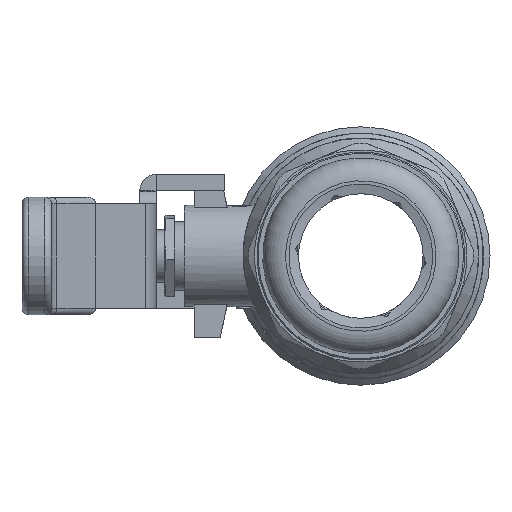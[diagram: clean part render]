
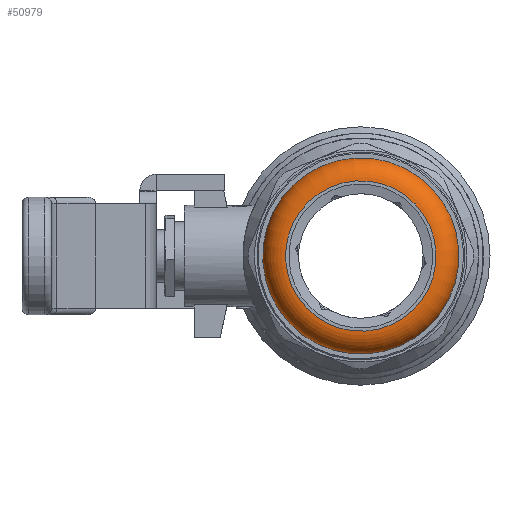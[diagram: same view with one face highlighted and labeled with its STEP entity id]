
A CAD part, left-side view. The second image highlights one B-rep face of the part: STEP entity #50979.
In plain terms, the highlighted toroidal (fillet/blend) face has major radius 11.5 mm and minor radius 3.5 mm.
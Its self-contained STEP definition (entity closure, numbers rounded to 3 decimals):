
#50689=CARTESIAN_POINT('',(-58.8,6.802,-9.273));
#50690=VERTEX_POINT('',#50689);
#50691=CARTESIAN_POINT('',(-58.8,0.0,0.0));
#50692=DIRECTION('',(1.,0.,0.));
#50693=DIRECTION('',(0.,0.591,-0.806));
#50694=AXIS2_PLACEMENT_3D('',#50691,#50692,#50693);
#50695=CIRCLE('',#50694,11.5);
#50696=EDGE_CURVE('',#50690,#50690,#50695,.T.);
#50956=CARTESIAN_POINT('',(-53.55,8.594,-11.717));
#50957=VERTEX_POINT('',#50956);
#50958=CARTESIAN_POINT('',(-53.55,0.0,0.0));
#50959=DIRECTION('',(1.0,0.,0.));
#50960=DIRECTION('',(0.,0.591,-0.806));
#50961=AXIS2_PLACEMENT_3D('',#50958,#50959,#50960);
#50962=CIRCLE('',#50961,14.531);
#50963=EDGE_CURVE('',#50957,#50957,#50962,.T.);
#50968=CARTESIAN_POINT('',(-55.3,0.,0.));
#50969=DIRECTION('',(1.0,0.,0.));
#50970=DIRECTION('',(0.,-0.806,-0.591));
#50971=AXIS2_PLACEMENT_3D('',#50968,#50969,#50970);
#50972=TOROIDAL_SURFACE('',#50971,11.5,3.5);
#50973=ORIENTED_EDGE('',*,*,#50696,.T.);
#50974=EDGE_LOOP('',(#50973));
#50975=FACE_OUTER_BOUND('',#50974,.T.);
#50976=ORIENTED_EDGE('',*,*,#50963,.F.);
#50977=EDGE_LOOP('',(#50976));
#50978=FACE_BOUND('',#50977,.T.);
#50979=ADVANCED_FACE('',(#50975,#50978),#50972,.T.);
